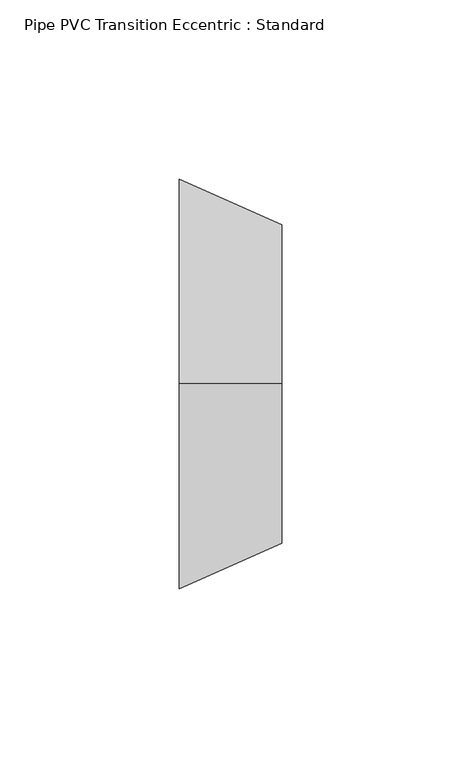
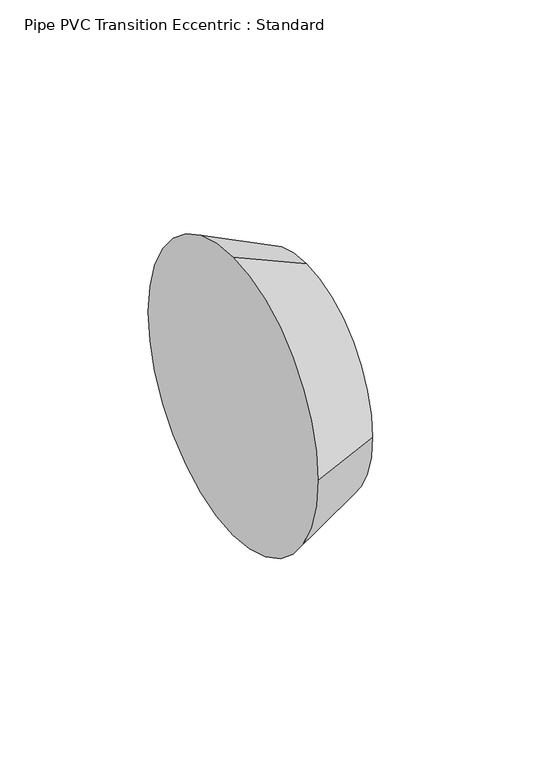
"""IFC4 building model written with IfcOpenShell, lengths in millimetres: pipe fitting geometry, Pipe PVC Transition Eccentric : Standard."""

from ifc_helpers import new_model, si_unit, frame, origin, place, context, project, spatial, circle_curve, source, transform, mapped, element, save
from ifc_brep_helpers import plane_surface, spline_surface, advanced_brep


def pipe_pvc_transition_eccentric_standard_b1f971f5(model_context):
    return source(origin(), model_context, "Body", "AdvancedBrep", [
        advanced_brep(
        [(28.575, 0.0, 44.4500754), (28.575, -44.45, 7.54e-05), (28.575, 0.0, -44.4499246), (28.575, 44.45, 7.54e-05), (0.0, 0.0, 57.15), (0.0, 57.15, 0.0), (0.0, 0.0, -57.15), (0.0, -57.15, 0.0)],
        [
            (0, 1, circle_curve(frame((28.575, 0.0, 7.54e-05), z_axis=(1.0, 0.0, 0.0), x_axis=(0.0, 1.0, 0.0)), 44.45)),
            (1, 2, circle_curve(frame((28.575, 0.0, 7.54e-05), z_axis=(1.0, 0.0, 0.0), x_axis=(0.0, 1.0, 0.0)), 44.45)),
            (2, 3, circle_curve(frame((28.575, 0.0, 7.54e-05), z_axis=(1.0, 0.0, 0.0), x_axis=(0.0, 1.0, 0.0)), 44.45)),
            (3, 0, circle_curve(frame((28.575, 0.0, 7.54e-05), z_axis=(1.0, 0.0, 0.0), x_axis=(0.0, 1.0, 0.0)), 44.45)),
            (4, 5, circle_curve(frame((0.0, 0.0, 0.0), z_axis=(-1.0, 0.0, 0.0), x_axis=(0.0, 1.0, 0.0)), 57.15)),
            (5, 6, circle_curve(frame((0.0, 0.0, 0.0), z_axis=(-1.0, 0.0, 0.0), x_axis=(0.0, 1.0, 0.0)), 57.15)),
            (6, 7, circle_curve(frame((0.0, 0.0, 0.0), z_axis=(-1.0, 0.0, 0.0), x_axis=(0.0, 1.0, 0.0)), 57.15)),
            (7, 4, circle_curve(frame((0.0, 0.0, 0.0), z_axis=(-1.0, 0.0, 0.0), x_axis=(0.0, 1.0, 0.0)), 57.15)),
            (7, 1),
            (0, 4),
            (6, 2),
            (5, 3),
        ],
        [
            plane_surface(frame((28.575, 0.0, 7.54e-05), z_axis=(1.0, 0.0, 0.0), x_axis=(0.0, -1.0, 0.0))),
            plane_surface(frame((0.0, 0.0, 0.0), z_axis=(-1.0, 0.0, 0.0), x_axis=(0.0, -1.0, 0.0))),
            spline_surface(2, 1, [[(0.0, 0.0, 57.15), (28.575, 0.0, 44.4500754)], [(0.0, -57.15, 57.15), (28.575, -44.45, 44.4500754)], [(0.0, -57.15, 0.0), (28.575, -44.45, 7.54e-05)]], [3, 3], [2, 2], [0.0, 1.0], [0.0, 1.0], weights=[[1.0, 1.0], [0.7071067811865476, 0.7071067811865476], [1.0, 1.0]]),
            spline_surface(2, 1, [[(0.0, -57.15, 0.0), (28.575, -44.45, 7.54e-05)], [(0.0, -57.15, -57.15), (28.575, -44.45, -44.4499246)], [(0.0, 0.0, -57.15), (28.575, 0.0, -44.4499246)]], [3, 3], [2, 2], [0.0, 1.0], [0.0, 1.0], weights=[[1.0, 1.0], [0.7071067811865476, 0.7071067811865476], [1.0, 1.0]]),
            spline_surface(2, 1, [[(0.0, 0.0, -57.15), (28.575, 0.0, -44.4499246)], [(0.0, 57.15, -57.15), (28.575, 44.45, -44.4499246)], [(0.0, 57.15, 0.0), (28.575, 44.45, 7.54e-05)]], [3, 3], [2, 2], [0.0, 1.0], [0.0, 1.0], weights=[[1.0, 1.0], [0.7071067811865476, 0.7071067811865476], [1.0, 1.0]]),
            spline_surface(2, 1, [[(0.0, 57.15, 0.0), (28.575, 44.45, 7.54e-05)], [(0.0, 57.15, 57.15), (28.575, 44.45, 44.4500754)], [(0.0, 0.0, 57.15), (28.575, 0.0, 44.4500754)]], [3, 3], [2, 2], [0.0, 1.0], [0.0, 1.0], weights=[[1.0, 1.0], [0.7071067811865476, 0.7071067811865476], [1.0, 1.0]]),
        ],
        [
            (0, [[1, 2, 3, 4]]),
            (1, [[5, 6, 7, 8]]),
            (2, [[-8, 9, -1, 10]]),
            (3, [[-7, 11, -2, -9]]),
            (4, [[-6, 12, -3, -11]]),
            (5, [[-5, -10, -4, -12]]),
        ],
    ),
        advanced_brep(
        [(28.575, 0.0, 44.4500754), (28.575, -44.45, 7.54e-05), (28.575, 0.0, -44.4499246), (28.575, 44.45, 7.54e-05), (0.0, 0.0, 57.15), (0.0, 57.15, 0.0), (0.0, 0.0, -57.15), (0.0, -57.15, 0.0)],
        [
            (0, 1, circle_curve(frame((28.575, 0.0, 7.54e-05), z_axis=(1.0, 0.0, 0.0), x_axis=(0.0, 1.0, 0.0)), 44.45)),
            (1, 2, circle_curve(frame((28.575, 0.0, 7.54e-05), z_axis=(1.0, 0.0, 0.0), x_axis=(0.0, 1.0, 0.0)), 44.45)),
            (2, 3, circle_curve(frame((28.575, 0.0, 7.54e-05), z_axis=(1.0, 0.0, 0.0), x_axis=(0.0, 1.0, 0.0)), 44.45)),
            (3, 0, circle_curve(frame((28.575, 0.0, 7.54e-05), z_axis=(1.0, 0.0, 0.0), x_axis=(0.0, 1.0, 0.0)), 44.45)),
            (4, 5, circle_curve(frame((0.0, 0.0, 0.0), z_axis=(-1.0, 0.0, 0.0), x_axis=(0.0, 1.0, 0.0)), 57.15)),
            (5, 6, circle_curve(frame((0.0, 0.0, 0.0), z_axis=(-1.0, 0.0, 0.0), x_axis=(0.0, 1.0, 0.0)), 57.15)),
            (6, 7, circle_curve(frame((0.0, 0.0, 0.0), z_axis=(-1.0, 0.0, 0.0), x_axis=(0.0, 1.0, 0.0)), 57.15)),
            (7, 4, circle_curve(frame((0.0, 0.0, 0.0), z_axis=(-1.0, 0.0, 0.0), x_axis=(0.0, 1.0, 0.0)), 57.15)),
            (7, 1),
            (0, 4),
            (6, 2),
            (5, 3),
        ],
        [
            plane_surface(frame((28.575, 0.0, 7.54e-05), z_axis=(1.0, 0.0, 0.0), x_axis=(0.0, -1.0, 0.0))),
            plane_surface(frame((0.0, 0.0, 0.0), z_axis=(-1.0, 0.0, 0.0), x_axis=(0.0, -1.0, 0.0))),
            spline_surface(2, 1, [[(0.0, 0.0, 57.15), (28.575, 0.0, 44.4500754)], [(0.0, -57.15, 57.15), (28.575, -44.45, 44.4500754)], [(0.0, -57.15, 0.0), (28.575, -44.45, 7.54e-05)]], [3, 3], [2, 2], [0.0, 1.0], [0.0, 1.0], weights=[[1.0, 1.0], [0.7071067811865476, 0.7071067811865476], [1.0, 1.0]]),
            spline_surface(2, 1, [[(0.0, -57.15, 0.0), (28.575, -44.45, 7.54e-05)], [(0.0, -57.15, -57.15), (28.575, -44.45, -44.4499246)], [(0.0, 0.0, -57.15), (28.575, 0.0, -44.4499246)]], [3, 3], [2, 2], [0.0, 1.0], [0.0, 1.0], weights=[[1.0, 1.0], [0.7071067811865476, 0.7071067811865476], [1.0, 1.0]]),
            spline_surface(2, 1, [[(0.0, 0.0, -57.15), (28.575, 0.0, -44.4499246)], [(0.0, 57.15, -57.15), (28.575, 44.45, -44.4499246)], [(0.0, 57.15, 0.0), (28.575, 44.45, 7.54e-05)]], [3, 3], [2, 2], [0.0, 1.0], [0.0, 1.0], weights=[[1.0, 1.0], [0.7071067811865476, 0.7071067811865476], [1.0, 1.0]]),
            spline_surface(2, 1, [[(0.0, 57.15, 0.0), (28.575, 44.45, 7.54e-05)], [(0.0, 57.15, 57.15), (28.575, 44.45, 44.4500754)], [(0.0, 0.0, 57.15), (28.575, 0.0, 44.4500754)]], [3, 3], [2, 2], [0.0, 1.0], [0.0, 1.0], weights=[[1.0, 1.0], [0.7071067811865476, 0.7071067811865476], [1.0, 1.0]]),
        ],
        [
            (0, [[1, 2, 3, 4]]),
            (1, [[5, 6, 7, 8]]),
            (2, [[-8, 9, -1, 10]]),
            (3, [[-7, 11, -2, -9]]),
            (4, [[-6, 12, -3, -11]]),
            (5, [[-5, -10, -4, -12]]),
        ],
    ),
    ])


if __name__ == "__main__":
    model = new_model("IFC4")
    model_context = context("Model", 3, world=origin())
    ifc_project = project(units=[si_unit("LENGTHUNIT", "METRE", prefix="MILLI")], contexts=[model_context])
    site = spatial("IfcSite", under=ifc_project)
    building = spatial("IfcBuilding", under=site)
    placement = place(None, origin())
    pipe_pvc_transition_eccentric_standard_shape = pipe_pvc_transition_eccentric_standard_b1f971f5(model_context)
    element("IfcPipeFitting", 1, ObjectType="Pipe PVC Transition Eccentric : Standard", at=placement, inside=building, context=model_context, shape_type="MappedRepresentation", body=[
        mapped(pipe_pvc_transition_eccentric_standard_shape, transform((0.0, 0.0, 0.0), x_axis=(1.0, 0.0, 0.0), y_axis=(0.0, 1.0, 0.0), z_axis=(0.0, 0.0, 1.0))),
    ])
    save(model, "model.ifc")
